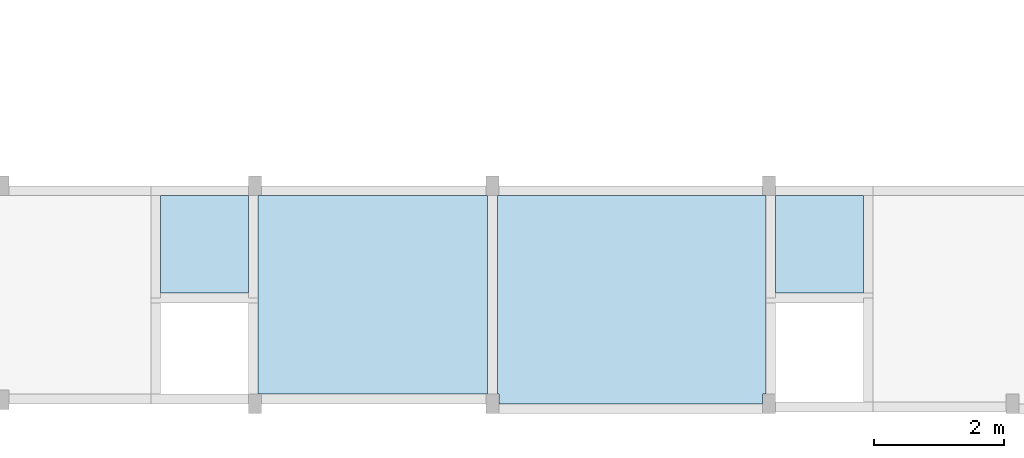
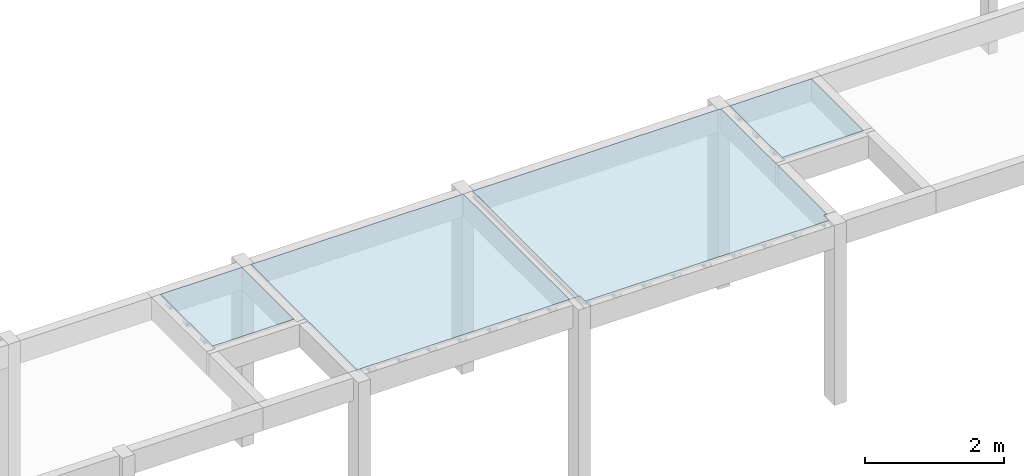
# One storey, part 5 of 11: 4 slabs.
"""IFC4 building model written with IfcOpenShell, lengths in centimetres."""

from ifc_helpers import new_model, si_unit, derived_unit, frame, origin_with_axes, place, context, project, spatial, polyline, outline, extrude, faceted_brep, material, element, save


model = new_model("IFC4")

# Units and contexts
model_context = context("Model", 3, precision=1e-05, world=origin_with_axes(), identifier="Body")
ifc_project = project(units=[si_unit("LENGTHUNIT", "METRE", prefix="CENTI"), si_unit("VOLUMEUNIT", "CUBIC_METRE"), si_unit("AREAUNIT", "SQUARE_METRE"), si_unit("POWERUNIT", "WATT"), si_unit("LUMINOUSFLUXUNIT", "LUMEN"), si_unit("ELECTRICCURRENTUNIT", "AMPERE"), si_unit("PRESSUREUNIT", "PASCAL", prefix="KILO"), si_unit("MASSUNIT", "GRAM", prefix="KILO"), si_unit("PLANEANGLEUNIT", "RADIAN"), derived_unit("VOLUMETRICFLOWRATEUNIT", [(si_unit("LENGTHUNIT", "METRE"), 3), (si_unit("TIMEUNIT", "SECOND"), -1)])], contexts=[model_context])

# Site, building, storey
site_placement = place(None, origin_with_axes())
site = spatial("IfcSite", under=ifc_project, at=site_placement)
building_placement = place(site_placement, frame((0.0, 0.0, -295.0)))
building = spatial("IfcBuilding", under=site, at=building_placement)
placement_1 = place(building_placement, origin_with_axes())
placement_2 = place(placement_1, frame((0.0, 0.0, 101.0), z_axis=(0.0, 0.0, 1.0), x_axis=(1.0, 0.0, 0.0)))
placement_3 = place(placement_2, frame((0.0, 0.0, 204.0), z_axis=(0.0, 0.0, 1.0), x_axis=(1.0, 0.0, 0.0)))
storey_placement = place(placement_3, frame((0.0, 0.0, 292.0), z_axis=(0.0, 0.0, 1.0), x_axis=(1.0, 0.0, 0.0)))
storey = spatial("IfcBuildingStorey", under=building, at=storey_placement, Name="PAVTO 01", CompositionType="ELEMENT", Elevation=302.0)

# Slabs
ifc_material = material(Name="Concreto")
slab_1_placement = place(storey_placement, frame((1826.1, -6919.17, 0.0), z_axis=(0.0, 0.0, 1.0), x_axis=(1.0, 0.0, 0.0)))
element("IfcSlab", 1, at=slab_1_placement, inside=storey, material=ifc_material, Name="L115", PredefinedType="FLOOR", context=model_context, shape_type="SolidModel", body=[
    extrude(outline(polyline([(67.499, 74.97), (-67.499, 74.969), (-67.5, -74.97), (67.5, -74.97), (67.499, 74.97), (67.499, 74.97)])), frame((0.0, 0.0, -4.0), z_axis=(0.0, 0.0, 1.0), x_axis=(1.0, 0.0, 0.0)), (0.0, 0.0, 1.0), 4.0),
    faceted_brep([(-67.4995, -40.0, -12.0), (67.4995, -40.0, -12.0), (67.4995, -50.0, -12.0), (-67.4995, -50.0, -12.0), (-67.4995, -50.0, -4.0), (67.4995, -50.0, -4.0), (67.4995, -40.0, -4.0), (-67.4995, -40.0, -4.0)], [[[0, 1, 2, 3]], [[4, 5, 6, 7]], [[4, 3, 5]], [[3, 2, 5]], [[5, 2, 6]], [[2, 1, 6]], [[6, 1, 7]], [[1, 0, 7]], [[7, 0, 4]], [[0, 3, 4]]]),
    faceted_brep([(-67.4995, -38.5, -12.0), (67.4995, -38.5, -12.0), (67.4995, -40.0, -12.0), (-67.4995, -40.0, -12.0), (-67.4995, -40.0, -9.0), (67.4995, -40.0, -9.0), (67.4995, -38.5, -9.0), (-67.4995, -38.5, -9.0)], [[[0, 1, 2, 3]], [[4, 5, 6, 7]], [[4, 3, 5]], [[3, 2, 5]], [[5, 2, 6]], [[2, 1, 6]], [[6, 1, 7]], [[1, 0, 7]], [[7, 0, 4]], [[0, 3, 4]]]),
    faceted_brep([(-67.4995, -50.0, -12.0), (67.4995, -50.0, -12.0), (67.4995, -51.5, -12.0), (-67.4995, -51.5, -12.0), (-67.4995, -51.5, -9.0), (67.4995, -51.5, -9.0), (67.4995, -50.0, -9.0), (-67.4995, -50.0, -9.0)], [[[0, 1, 2, 3]], [[4, 5, 6, 7]], [[4, 3, 5]], [[3, 2, 5]], [[5, 2, 6]], [[2, 1, 6]], [[6, 1, 7]], [[1, 0, 7]], [[7, 0, 4]], [[0, 3, 4]]]),
    faceted_brep([(-67.4995, 10.0, -12.0), (67.4995, 10.0, -12.0), (67.4995, 0.0, -12.0), (-67.4995, 0.0, -12.0), (-67.4995, 0.0, -4.0), (67.4995, 0.0, -4.0), (67.4995, 10.0, -4.0), (-67.4995, 10.0, -4.0)], [[[0, 1, 2, 3]], [[4, 5, 6, 7]], [[4, 3, 5]], [[3, 2, 5]], [[5, 2, 6]], [[2, 1, 6]], [[6, 1, 7]], [[1, 0, 7]], [[7, 0, 4]], [[0, 3, 4]]]),
    faceted_brep([(-67.4995, 11.5, -12.0), (67.4995, 11.5, -12.0), (67.4995, 10.0, -12.0), (-67.4995, 10.0, -12.0), (-67.4995, 10.0, -9.0), (67.4995, 10.0, -9.0), (67.4995, 11.5, -9.0), (-67.4995, 11.5, -9.0)], [[[0, 1, 2, 3]], [[4, 5, 6, 7]], [[4, 3, 5]], [[3, 2, 5]], [[5, 2, 6]], [[2, 1, 6]], [[6, 1, 7]], [[1, 0, 7]], [[7, 0, 4]], [[0, 3, 4]]]),
    faceted_brep([(-67.4995, 0.0, -12.0), (67.4995, 0.0, -12.0), (67.4995, -1.5, -12.0), (-67.4995, -1.5, -12.0), (-67.4995, -1.5, -9.0), (67.4995, -1.5, -9.0), (67.4995, 0.0, -9.0), (-67.4995, 0.0, -9.0)], [[[0, 1, 2, 3]], [[4, 5, 6, 7]], [[4, 3, 5]], [[3, 2, 5]], [[5, 2, 6]], [[2, 1, 6]], [[6, 1, 7]], [[1, 0, 7]], [[7, 0, 4]], [[0, 3, 4]]]),
    faceted_brep([(-67.4995, 60.0, -12.0), (67.4995, 60.0, -12.0), (67.4995, 50.0, -12.0), (-67.4995, 50.0, -12.0), (-67.4995, 50.0, -4.0), (67.4995, 50.0, -4.0), (67.4995, 60.0, -4.0), (-67.4995, 60.0, -4.0)], [[[0, 1, 2, 3]], [[4, 5, 6, 7]], [[4, 3, 5]], [[3, 2, 5]], [[5, 2, 6]], [[2, 1, 6]], [[6, 1, 7]], [[1, 0, 7]], [[7, 0, 4]], [[0, 3, 4]]]),
    faceted_brep([(-67.4995, 61.5, -12.0), (67.4995, 61.5, -12.0), (67.4995, 60.0, -12.0), (-67.4995, 60.0, -12.0), (-67.4995, 60.0, -9.0), (67.4995, 60.0, -9.0), (67.4995, 61.5, -9.0), (-67.4995, 61.5, -9.0)], [[[0, 1, 2, 3]], [[4, 5, 6, 7]], [[4, 3, 5]], [[3, 2, 5]], [[5, 2, 6]], [[2, 1, 6]], [[6, 1, 7]], [[1, 0, 7]], [[7, 0, 4]], [[0, 3, 4]]]),
    faceted_brep([(-67.4995, 50.0, -12.0), (67.4995, 50.0, -12.0), (67.4995, 48.5, -12.0), (-67.4995, 48.5, -12.0), (-67.4995, 48.5, -9.0), (67.4995, 48.5, -9.0), (67.4995, 50.0, -9.0), (-67.4995, 50.0, -9.0)], [[[0, 1, 2, 3]], [[4, 5, 6, 7]], [[4, 3, 5]], [[3, 2, 5]], [[5, 2, 6]], [[2, 1, 6]], [[6, 1, 7]], [[1, 0, 7]], [[7, 0, 4]], [[0, 3, 4]]]),
])
slab_2_placement = place(storey_placement, frame((2084.915, -6996.755, 0.0), z_axis=(0.0, 0.0, 1.0), x_axis=(1.0, 0.0, 0.0)))
element("IfcSlab", 2, at=slab_2_placement, inside=storey, material=ifc_material, Name="L116", PredefinedType="FLOOR", context=model_context, shape_type="SolidModel", body=[
    extrude(outline(polyline([(176.314, -152.554), (176.315, 152.555), (-176.314, 152.555), (-176.315, -152.555), (176.314, -152.554), (176.314, -152.554)])), frame((0.0, 0.0, -4.0), z_axis=(0.0, 0.0, 1.0), x_axis=(1.0, 0.0, 0.0)), (0.0, 0.0, 1.0), 4.0),
    faceted_brep([(-5.0, -152.5545, -12.0), (-5.0, 152.555, -12.0), (5.0, 152.555, -12.0), (5.0, -152.5545, -12.0), (5.0, -152.5545, -4.0), (5.0, 152.555, -4.0), (-5.0, 152.555, -4.0), (-5.0, -152.5545, -4.0)], [[[0, 1, 2, 3]], [[4, 5, 6, 7]], [[4, 3, 5]], [[3, 2, 5]], [[5, 2, 6]], [[2, 1, 6]], [[6, 1, 7]], [[1, 0, 7]], [[7, 0, 4]], [[0, 3, 4]]]),
    faceted_brep([(-6.5, -152.5545, -12.0), (-6.5, 152.555, -12.0), (-5.0, 152.555, -12.0), (-5.0, -152.5545, -12.0), (-5.0, -152.5545, -9.0), (-5.0, 152.555, -9.0), (-6.5, 152.555, -9.0), (-6.5, -152.5545, -9.0)], [[[0, 1, 2, 3]], [[4, 5, 6, 7]], [[4, 3, 5]], [[3, 2, 5]], [[5, 2, 6]], [[2, 1, 6]], [[6, 1, 7]], [[1, 0, 7]], [[7, 0, 4]], [[0, 3, 4]]]),
    faceted_brep([(5.0, -152.5545, -12.0), (5.0, 152.555, -12.0), (6.5, 152.555, -12.0), (6.5, -152.5545, -12.0), (6.5, -152.5545, -9.0), (6.5, 152.555, -9.0), (5.0, 152.555, -9.0), (5.0, -152.5545, -9.0)], [[[0, 1, 2, 3]], [[4, 5, 6, 7]], [[4, 3, 5]], [[3, 2, 5]], [[5, 2, 6]], [[2, 1, 6]], [[6, 1, 7]], [[1, 0, 7]], [[7, 0, 4]], [[0, 3, 4]]]),
    faceted_brep([(-55.0, -152.5545, -12.0), (-55.0, 152.555, -12.0), (-45.0, 152.555, -12.0), (-45.0, -152.5545, -12.0), (-45.0, -152.5545, -4.0), (-45.0, 152.555, -4.0), (-55.0, 152.555, -4.0), (-55.0, -152.5545, -4.0)], [[[0, 1, 2, 3]], [[4, 5, 6, 7]], [[4, 3, 5]], [[3, 2, 5]], [[5, 2, 6]], [[2, 1, 6]], [[6, 1, 7]], [[1, 0, 7]], [[7, 0, 4]], [[0, 3, 4]]]),
    faceted_brep([(-56.5, -152.5545, -12.0), (-56.5, 152.555, -12.0), (-55.0, 152.555, -12.0), (-55.0, -152.5545, -12.0), (-55.0, -152.5545, -9.0), (-55.0, 152.555, -9.0), (-56.5, 152.555, -9.0), (-56.5, -152.5545, -9.0)], [[[0, 1, 2, 3]], [[4, 5, 6, 7]], [[4, 3, 5]], [[3, 2, 5]], [[5, 2, 6]], [[2, 1, 6]], [[6, 1, 7]], [[1, 0, 7]], [[7, 0, 4]], [[0, 3, 4]]]),
    faceted_brep([(-45.0, -152.5545, -12.0), (-45.0, 152.555, -12.0), (-43.5, 152.555, -12.0), (-43.5, -152.5545, -12.0), (-43.5, -152.5545, -9.0), (-43.5, 152.555, -9.0), (-45.0, 152.555, -9.0), (-45.0, -152.5545, -9.0)], [[[0, 1, 2, 3]], [[4, 5, 6, 7]], [[4, 3, 5]], [[3, 2, 5]], [[5, 2, 6]], [[2, 1, 6]], [[6, 1, 7]], [[1, 0, 7]], [[7, 0, 4]], [[0, 3, 4]]]),
    faceted_brep([(-105.0, -152.5545, -12.0), (-105.0, 152.555, -12.0), (-95.0, 152.555, -12.0), (-95.0, -152.5545, -12.0), (-95.0, -152.5545, -4.0), (-95.0, 152.555, -4.0), (-105.0, 152.555, -4.0), (-105.0, -152.5545, -4.0)], [[[0, 1, 2, 3]], [[4, 5, 6, 7]], [[4, 3, 5]], [[3, 2, 5]], [[5, 2, 6]], [[2, 1, 6]], [[6, 1, 7]], [[1, 0, 7]], [[7, 0, 4]], [[0, 3, 4]]]),
    faceted_brep([(-106.5, -152.5545, -12.0), (-106.5, 152.555, -12.0), (-105.0, 152.555, -12.0), (-105.0, -152.5545, -12.0), (-105.0, -152.5545, -9.0), (-105.0, 152.555, -9.0), (-106.5, 152.555, -9.0), (-106.5, -152.5545, -9.0)], [[[0, 1, 2, 3]], [[4, 5, 6, 7]], [[4, 3, 5]], [[3, 2, 5]], [[5, 2, 6]], [[2, 1, 6]], [[6, 1, 7]], [[1, 0, 7]], [[7, 0, 4]], [[0, 3, 4]]]),
    faceted_brep([(-95.0, -152.5545, -12.0), (-95.0, 152.555, -12.0), (-93.5, 152.555, -12.0), (-93.5, -152.5545, -12.0), (-93.5, -152.5545, -9.0), (-93.5, 152.555, -9.0), (-95.0, 152.555, -9.0), (-95.0, -152.5545, -9.0)], [[[0, 1, 2, 3]], [[4, 5, 6, 7]], [[4, 3, 5]], [[3, 2, 5]], [[5, 2, 6]], [[2, 1, 6]], [[6, 1, 7]], [[1, 0, 7]], [[7, 0, 4]], [[0, 3, 4]]]),
    faceted_brep([(-155.0, -152.5545, -12.0), (-155.0, 152.555, -12.0), (-145.0, 152.555, -12.0), (-145.0, -152.5545, -12.0), (-145.0, -152.5545, -4.0), (-145.0, 152.555, -4.0), (-155.0, 152.555, -4.0), (-155.0, -152.5545, -4.0)], [[[0, 1, 2, 3]], [[4, 5, 6, 7]], [[4, 3, 5]], [[3, 2, 5]], [[5, 2, 6]], [[2, 1, 6]], [[6, 1, 7]], [[1, 0, 7]], [[7, 0, 4]], [[0, 3, 4]]]),
    faceted_brep([(-156.5, -152.5545, -12.0), (-156.5, 152.555, -12.0), (-155.0, 152.555, -12.0), (-155.0, -152.5545, -12.0), (-155.0, -152.5545, -9.0), (-155.0, 152.555, -9.0), (-156.5, 152.555, -9.0), (-156.5, -152.5545, -9.0)], [[[0, 1, 2, 3]], [[4, 5, 6, 7]], [[4, 3, 5]], [[3, 2, 5]], [[5, 2, 6]], [[2, 1, 6]], [[6, 1, 7]], [[1, 0, 7]], [[7, 0, 4]], [[0, 3, 4]]]),
    faceted_brep([(-145.0, -152.5545, -12.0), (-145.0, 152.555, -12.0), (-143.5, 152.555, -12.0), (-143.5, -152.5545, -12.0), (-143.5, -152.5545, -9.0), (-143.5, 152.555, -9.0), (-145.0, 152.555, -9.0), (-145.0, -152.5545, -9.0)], [[[0, 1, 2, 3]], [[4, 5, 6, 7]], [[4, 3, 5]], [[3, 2, 5]], [[5, 2, 6]], [[2, 1, 6]], [[6, 1, 7]], [[1, 0, 7]], [[7, 0, 4]], [[0, 3, 4]]]),
    faceted_brep([(45.0, -152.5545, -12.0), (45.0, 152.555, -12.0), (55.0, 152.555, -12.0), (55.0, -152.5545, -12.0), (55.0, -152.5545, -4.0), (55.0, 152.555, -4.0), (45.0, 152.555, -4.0), (45.0, -152.5545, -4.0)], [[[0, 1, 2, 3]], [[4, 5, 6, 7]], [[4, 3, 5]], [[3, 2, 5]], [[5, 2, 6]], [[2, 1, 6]], [[6, 1, 7]], [[1, 0, 7]], [[7, 0, 4]], [[0, 3, 4]]]),
    faceted_brep([(43.5, -152.5545, -12.0), (43.5, 152.555, -12.0), (45.0, 152.555, -12.0), (45.0, -152.5545, -12.0), (45.0, -152.5545, -9.0), (45.0, 152.555, -9.0), (43.5, 152.555, -9.0), (43.5, -152.5545, -9.0)], [[[0, 1, 2, 3]], [[4, 5, 6, 7]], [[4, 3, 5]], [[3, 2, 5]], [[5, 2, 6]], [[2, 1, 6]], [[6, 1, 7]], [[1, 0, 7]], [[7, 0, 4]], [[0, 3, 4]]]),
    faceted_brep([(55.0, -152.5545, -12.0), (55.0, 152.555, -12.0), (56.5, 152.555, -12.0), (56.5, -152.5545, -12.0), (56.5, -152.5545, -9.0), (56.5, 152.555, -9.0), (55.0, 152.555, -9.0), (55.0, -152.5545, -9.0)], [[[0, 1, 2, 3]], [[4, 5, 6, 7]], [[4, 3, 5]], [[3, 2, 5]], [[5, 2, 6]], [[2, 1, 6]], [[6, 1, 7]], [[1, 0, 7]], [[7, 0, 4]], [[0, 3, 4]]]),
    faceted_brep([(95.0, -152.5545, -12.0), (95.0, 152.555, -12.0), (105.0, 152.555, -12.0), (105.0, -152.5545, -12.0), (105.0, -152.5545, -4.0), (105.0, 152.555, -4.0), (95.0, 152.555, -4.0), (95.0, -152.5545, -4.0)], [[[0, 1, 2, 3]], [[4, 5, 6, 7]], [[4, 3, 5]], [[3, 2, 5]], [[5, 2, 6]], [[2, 1, 6]], [[6, 1, 7]], [[1, 0, 7]], [[7, 0, 4]], [[0, 3, 4]]]),
    faceted_brep([(93.5, -152.5545, -12.0), (93.5, 152.555, -12.0), (95.0, 152.555, -12.0), (95.0, -152.5545, -12.0), (95.0, -152.5545, -9.0), (95.0, 152.555, -9.0), (93.5, 152.555, -9.0), (93.5, -152.5545, -9.0)], [[[0, 1, 2, 3]], [[4, 5, 6, 7]], [[4, 3, 5]], [[3, 2, 5]], [[5, 2, 6]], [[2, 1, 6]], [[6, 1, 7]], [[1, 0, 7]], [[7, 0, 4]], [[0, 3, 4]]]),
    faceted_brep([(105.0, -152.5545, -12.0), (105.0, 152.555, -12.0), (106.5, 152.555, -12.0), (106.5, -152.5545, -12.0), (106.5, -152.5545, -9.0), (106.5, 152.555, -9.0), (105.0, 152.555, -9.0), (105.0, -152.5545, -9.0)], [[[0, 1, 2, 3]], [[4, 5, 6, 7]], [[4, 3, 5]], [[3, 2, 5]], [[5, 2, 6]], [[2, 1, 6]], [[6, 1, 7]], [[1, 0, 7]], [[7, 0, 4]], [[0, 3, 4]]]),
    faceted_brep([(145.0, -152.5545, -12.0), (145.0, 152.555, -12.0), (155.0, 152.555, -12.0), (155.0, -152.5545, -12.0), (155.0, -152.5545, -4.0), (155.0, 152.555, -4.0), (145.0, 152.555, -4.0), (145.0, -152.5545, -4.0)], [[[0, 1, 2, 3]], [[4, 5, 6, 7]], [[4, 3, 5]], [[3, 2, 5]], [[5, 2, 6]], [[2, 1, 6]], [[6, 1, 7]], [[1, 0, 7]], [[7, 0, 4]], [[0, 3, 4]]]),
    faceted_brep([(143.5, -152.5545, -12.0), (143.5, 152.555, -12.0), (145.0, 152.555, -12.0), (145.0, -152.5545, -12.0), (145.0, -152.5545, -9.0), (145.0, 152.555, -9.0), (143.5, 152.555, -9.0), (143.5, -152.5545, -9.0)], [[[0, 1, 2, 3]], [[4, 5, 6, 7]], [[4, 3, 5]], [[3, 2, 5]], [[5, 2, 6]], [[2, 1, 6]], [[6, 1, 7]], [[1, 0, 7]], [[7, 0, 4]], [[0, 3, 4]]]),
    faceted_brep([(155.0, -152.5545, -12.0), (155.0, 152.555, -12.0), (156.5, 152.555, -12.0), (156.5, -152.5545, -12.0), (156.5, -152.5545, -9.0), (156.5, 152.555, -9.0), (155.0, 152.555, -9.0), (155.0, -152.5545, -9.0)], [[[0, 1, 2, 3]], [[4, 5, 6, 7]], [[4, 3, 5]], [[3, 2, 5]], [[5, 2, 6]], [[2, 1, 6]], [[6, 1, 7]], [[1, 0, 7]], [[7, 0, 4]], [[0, 3, 4]]]),
])
slab_3_placement = place(storey_placement, frame((2482.415, -7004.254998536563, 0.0), z_axis=(0.0, 0.0, 1.0), x_axis=(1.0, 0.0, 0.0)))
element("IfcSlab", 3, at=slab_3_placement, inside=storey, material=ifc_material, Name="L117", PredefinedType="FLOOR", context=model_context, shape_type="SolidModel", body=[
    extrude(outline(polyline([(201.184, -145.055), (206.184, -145.054), (206.184, 160.055), (-206.184, 160.055), (-206.185, -145.054), (-203.684, -145.055), (-203.684, -160.054), (201.185, -160.055), (201.184, -145.055), (201.184, -145.055)])), frame((0.0, 0.0, -4.0), z_axis=(0.0, 0.0, 1.0), x_axis=(1.0, 0.0, 0.0)), (0.0, 0.0, 1.0), 4.0),
    faceted_brep([(-5.0, -160.0545014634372, -12.0), (-5.0, 160.0549985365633, -12.0), (5.0, 160.0549985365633, -12.0), (5.0, -160.0545014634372, -12.0), (5.0, -160.0545014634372, -4.0), (5.0, 160.0549985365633, -4.0), (-5.0, 160.0549985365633, -4.0), (-5.0, -160.0545014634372, -4.0)], [[[0, 1, 2, 3]], [[4, 5, 6, 7]], [[4, 3, 5]], [[3, 2, 5]], [[5, 2, 6]], [[2, 1, 6]], [[6, 1, 7]], [[1, 0, 7]], [[7, 0, 4]], [[0, 3, 4]]]),
    faceted_brep([(-6.5, -160.0545014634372, -12.0), (-6.5, 160.0549985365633, -12.0), (-5.0, 160.0549985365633, -12.0), (-5.0, -160.0545014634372, -12.0), (-5.0, -160.0545014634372, -9.0), (-5.0, 160.0549985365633, -9.0), (-6.5, 160.0549985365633, -9.0), (-6.5, -160.0545014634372, -9.0)], [[[0, 1, 2, 3]], [[4, 5, 6, 7]], [[4, 3, 5]], [[3, 2, 5]], [[5, 2, 6]], [[2, 1, 6]], [[6, 1, 7]], [[1, 0, 7]], [[7, 0, 4]], [[0, 3, 4]]]),
    faceted_brep([(5.0, -160.0545014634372, -12.0), (5.0, 160.0549985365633, -12.0), (6.5, 160.0549985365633, -12.0), (6.5, -160.0545014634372, -12.0), (6.5, -160.0545014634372, -9.0), (6.5, 160.0549985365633, -9.0), (5.0, 160.0549985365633, -9.0), (5.0, -160.0545014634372, -9.0)], [[[0, 1, 2, 3]], [[4, 5, 6, 7]], [[4, 3, 5]], [[3, 2, 5]], [[5, 2, 6]], [[2, 1, 6]], [[6, 1, 7]], [[1, 0, 7]], [[7, 0, 4]], [[0, 3, 4]]]),
    faceted_brep([(-55.0, -160.0545014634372, -12.0), (-55.0, 160.0549985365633, -12.0), (-45.0, 160.0549985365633, -12.0), (-45.0, -160.0545014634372, -12.0), (-45.0, -160.0545014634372, -4.0), (-45.0, 160.0549985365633, -4.0), (-55.0, 160.0549985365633, -4.0), (-55.0, -160.0545014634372, -4.0)], [[[0, 1, 2, 3]], [[4, 5, 6, 7]], [[4, 3, 5]], [[3, 2, 5]], [[5, 2, 6]], [[2, 1, 6]], [[6, 1, 7]], [[1, 0, 7]], [[7, 0, 4]], [[0, 3, 4]]]),
    faceted_brep([(-56.5, -160.0545014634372, -12.0), (-56.5, 160.0549985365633, -12.0), (-55.0, 160.0549985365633, -12.0), (-55.0, -160.0545014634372, -12.0), (-55.0, -160.0545014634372, -9.0), (-55.0, 160.0549985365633, -9.0), (-56.5, 160.0549985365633, -9.0), (-56.5, -160.0545014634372, -9.0)], [[[0, 1, 2, 3]], [[4, 5, 6, 7]], [[4, 3, 5]], [[3, 2, 5]], [[5, 2, 6]], [[2, 1, 6]], [[6, 1, 7]], [[1, 0, 7]], [[7, 0, 4]], [[0, 3, 4]]]),
    faceted_brep([(-45.0, -160.0545014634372, -12.0), (-45.0, 160.0549985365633, -12.0), (-43.5, 160.0549985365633, -12.0), (-43.5, -160.0545014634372, -12.0), (-43.5, -160.0545014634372, -9.0), (-43.5, 160.0549985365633, -9.0), (-45.0, 160.0549985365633, -9.0), (-45.0, -160.0545014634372, -9.0)], [[[0, 1, 2, 3]], [[4, 5, 6, 7]], [[4, 3, 5]], [[3, 2, 5]], [[5, 2, 6]], [[2, 1, 6]], [[6, 1, 7]], [[1, 0, 7]], [[7, 0, 4]], [[0, 3, 4]]]),
    faceted_brep([(-105.0, -160.0545014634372, -12.0), (-105.0, 160.0549985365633, -12.0), (-95.0, 160.0549985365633, -12.0), (-95.0, -160.0545014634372, -12.0), (-95.0, -160.0545014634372, -4.0), (-95.0, 160.0549985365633, -4.0), (-105.0, 160.0549985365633, -4.0), (-105.0, -160.0545014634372, -4.0)], [[[0, 1, 2, 3]], [[4, 5, 6, 7]], [[4, 3, 5]], [[3, 2, 5]], [[5, 2, 6]], [[2, 1, 6]], [[6, 1, 7]], [[1, 0, 7]], [[7, 0, 4]], [[0, 3, 4]]]),
    faceted_brep([(-106.5, -160.0545014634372, -12.0), (-106.5, 160.0549985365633, -12.0), (-105.0, 160.0549985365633, -12.0), (-105.0, -160.0545014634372, -12.0), (-105.0, -160.0545014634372, -9.0), (-105.0, 160.0549985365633, -9.0), (-106.5, 160.0549985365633, -9.0), (-106.5, -160.0545014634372, -9.0)], [[[0, 1, 2, 3]], [[4, 5, 6, 7]], [[4, 3, 5]], [[3, 2, 5]], [[5, 2, 6]], [[2, 1, 6]], [[6, 1, 7]], [[1, 0, 7]], [[7, 0, 4]], [[0, 3, 4]]]),
    faceted_brep([(-95.0, -160.0545014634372, -12.0), (-95.0, 160.0549985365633, -12.0), (-93.5, 160.0549985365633, -12.0), (-93.5, -160.0545014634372, -12.0), (-93.5, -160.0545014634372, -9.0), (-93.5, 160.0549985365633, -9.0), (-95.0, 160.0549985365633, -9.0), (-95.0, -160.0545014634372, -9.0)], [[[0, 1, 2, 3]], [[4, 5, 6, 7]], [[4, 3, 5]], [[3, 2, 5]], [[5, 2, 6]], [[2, 1, 6]], [[6, 1, 7]], [[1, 0, 7]], [[7, 0, 4]], [[0, 3, 4]]]),
    faceted_brep([(-155.0, -160.0545014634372, -12.0), (-155.0, 160.0549985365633, -12.0), (-145.0, 160.0549985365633, -12.0), (-145.0, -160.0545014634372, -12.0), (-145.0, -160.0545014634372, -4.0), (-145.0, 160.0549985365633, -4.0), (-155.0, 160.0549985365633, -4.0), (-155.0, -160.0545014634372, -4.0)], [[[0, 1, 2, 3]], [[4, 5, 6, 7]], [[4, 3, 5]], [[3, 2, 5]], [[5, 2, 6]], [[2, 1, 6]], [[6, 1, 7]], [[1, 0, 7]], [[7, 0, 4]], [[0, 3, 4]]]),
    faceted_brep([(-156.5, -160.0545014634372, -12.0), (-156.5, 160.0549985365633, -12.0), (-155.0, 160.0549985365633, -12.0), (-155.0, -160.0545014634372, -12.0), (-155.0, -160.0545014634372, -9.0), (-155.0, 160.0549985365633, -9.0), (-156.5, 160.0549985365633, -9.0), (-156.5, -160.0545014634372, -9.0)], [[[0, 1, 2, 3]], [[4, 5, 6, 7]], [[4, 3, 5]], [[3, 2, 5]], [[5, 2, 6]], [[2, 1, 6]], [[6, 1, 7]], [[1, 0, 7]], [[7, 0, 4]], [[0, 3, 4]]]),
    faceted_brep([(-145.0, -160.0545014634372, -12.0), (-145.0, 160.0549985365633, -12.0), (-143.5, 160.0549985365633, -12.0), (-143.5, -160.0545014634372, -12.0), (-143.5, -160.0545014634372, -9.0), (-143.5, 160.0549985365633, -9.0), (-145.0, 160.0549985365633, -9.0), (-145.0, -160.0545014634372, -9.0)], [[[0, 1, 2, 3]], [[4, 5, 6, 7]], [[4, 3, 5]], [[3, 2, 5]], [[5, 2, 6]], [[2, 1, 6]], [[6, 1, 7]], [[1, 0, 7]], [[7, 0, 4]], [[0, 3, 4]]]),
    faceted_brep([(-205.0, -145.0545014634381, -12.0), (-205.0, 160.0549985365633, -12.0), (-195.0, 160.0549985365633, -12.0), (-195.0, -160.0545014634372, -12.0), (-195.0, -160.0545014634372, -4.0), (-195.0, 160.0549985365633, -4.0), (-205.0, 160.0549985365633, -4.0), (-205.0, -145.0545014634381, -4.0)], [[[0, 1, 2, 3]], [[4, 5, 6, 7]], [[4, 3, 5]], [[3, 2, 5]], [[5, 2, 6]], [[2, 1, 6]], [[6, 1, 7]], [[1, 0, 7]], [[7, 0, 4]], [[0, 3, 4]]]),
    faceted_brep([(-206.5, -160.0540105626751, -12.0), (-206.5, 160.0549985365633, -12.0), (-205.0, 160.0549985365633, -12.0), (-205.0, -160.0540105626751, -12.0), (-205.0, -160.0540105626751, -9.0), (-205.0, 160.0549985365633, -9.0), (-206.5, 160.0549985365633, -9.0), (-206.5, -160.0540105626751, -9.0)], [[[0, 1, 2, 3]], [[4, 5, 6, 7]], [[4, 3, 5]], [[3, 2, 5]], [[5, 2, 6]], [[2, 1, 6]], [[6, 1, 7]], [[1, 0, 7]], [[7, 0, 4]], [[0, 3, 4]]]),
    faceted_brep([(-195.0, -160.0545014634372, -12.0), (-195.0, 160.0549985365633, -12.0), (-193.5, 160.0549985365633, -12.0), (-193.5, -160.0545014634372, -12.0), (-193.5, -160.0545014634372, -9.0), (-193.5, 160.0549985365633, -9.0), (-195.0, 160.0549985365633, -9.0), (-195.0, -160.0545014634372, -9.0)], [[[0, 1, 2, 3]], [[4, 5, 6, 7]], [[4, 3, 5]], [[3, 2, 5]], [[5, 2, 6]], [[2, 1, 6]], [[6, 1, 7]], [[1, 0, 7]], [[7, 0, 4]], [[0, 3, 4]]]),
    faceted_brep([(45.0, -160.0545014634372, -12.0), (45.0, 160.0549985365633, -12.0), (55.0, 160.0549985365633, -12.0), (55.0, -160.0545014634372, -12.0), (55.0, -160.0545014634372, -4.0), (55.0, 160.0549985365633, -4.0), (45.0, 160.0549985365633, -4.0), (45.0, -160.0545014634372, -4.0)], [[[0, 1, 2, 3]], [[4, 5, 6, 7]], [[4, 3, 5]], [[3, 2, 5]], [[5, 2, 6]], [[2, 1, 6]], [[6, 1, 7]], [[1, 0, 7]], [[7, 0, 4]], [[0, 3, 4]]]),
    faceted_brep([(43.5, -160.0545014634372, -12.0), (43.5, 160.0549985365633, -12.0), (45.0, 160.0549985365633, -12.0), (45.0, -160.0545014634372, -12.0), (45.0, -160.0545014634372, -9.0), (45.0, 160.0549985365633, -9.0), (43.5, 160.0549985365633, -9.0), (43.5, -160.0545014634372, -9.0)], [[[0, 1, 2, 3]], [[4, 5, 6, 7]], [[4, 3, 5]], [[3, 2, 5]], [[5, 2, 6]], [[2, 1, 6]], [[6, 1, 7]], [[1, 0, 7]], [[7, 0, 4]], [[0, 3, 4]]]),
    faceted_brep([(55.0, -160.0545014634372, -12.0), (55.0, 160.0549985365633, -12.0), (56.5, 160.0549985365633, -12.0), (56.5, -160.0545014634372, -12.0), (56.5, -160.0545014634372, -9.0), (56.5, 160.0549985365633, -9.0), (55.0, 160.0549985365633, -9.0), (55.0, -160.0545014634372, -9.0)], [[[0, 1, 2, 3]], [[4, 5, 6, 7]], [[4, 3, 5]], [[3, 2, 5]], [[5, 2, 6]], [[2, 1, 6]], [[6, 1, 7]], [[1, 0, 7]], [[7, 0, 4]], [[0, 3, 4]]]),
    faceted_brep([(95.0, -160.0545014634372, -12.0), (95.0, 160.0549985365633, -12.0), (105.0, 160.0549985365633, -12.0), (105.0, -160.0545014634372, -12.0), (105.0, -160.0545014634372, -4.0), (105.0, 160.0549985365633, -4.0), (95.0, 160.0549985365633, -4.0), (95.0, -160.0545014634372, -4.0)], [[[0, 1, 2, 3]], [[4, 5, 6, 7]], [[4, 3, 5]], [[3, 2, 5]], [[5, 2, 6]], [[2, 1, 6]], [[6, 1, 7]], [[1, 0, 7]], [[7, 0, 4]], [[0, 3, 4]]]),
    faceted_brep([(93.5, -160.0545014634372, -12.0), (93.5, 160.0549985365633, -12.0), (95.0, 160.0549985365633, -12.0), (95.0, -160.0545014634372, -12.0), (95.0, -160.0545014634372, -9.0), (95.0, 160.0549985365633, -9.0), (93.5, 160.0549985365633, -9.0), (93.5, -160.0545014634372, -9.0)], [[[0, 1, 2, 3]], [[4, 5, 6, 7]], [[4, 3, 5]], [[3, 2, 5]], [[5, 2, 6]], [[2, 1, 6]], [[6, 1, 7]], [[1, 0, 7]], [[7, 0, 4]], [[0, 3, 4]]]),
    faceted_brep([(105.0, -160.0545014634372, -12.0), (105.0, 160.0549985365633, -12.0), (106.5, 160.0549985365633, -12.0), (106.5, -160.0545014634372, -12.0), (106.5, -160.0545014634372, -9.0), (106.5, 160.0549985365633, -9.0), (105.0, 160.0549985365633, -9.0), (105.0, -160.0545014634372, -9.0)], [[[0, 1, 2, 3]], [[4, 5, 6, 7]], [[4, 3, 5]], [[3, 2, 5]], [[5, 2, 6]], [[2, 1, 6]], [[6, 1, 7]], [[1, 0, 7]], [[7, 0, 4]], [[0, 3, 4]]]),
    faceted_brep([(145.0, -160.0545014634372, -12.0), (145.0, 160.0549985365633, -12.0), (155.0, 160.0549985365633, -12.0), (155.0, -160.0545014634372, -12.0), (155.0, -160.0545014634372, -4.0), (155.0, 160.0549985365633, -4.0), (145.0, 160.0549985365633, -4.0), (145.0, -160.0545014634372, -4.0)], [[[0, 1, 2, 3]], [[4, 5, 6, 7]], [[4, 3, 5]], [[3, 2, 5]], [[5, 2, 6]], [[2, 1, 6]], [[6, 1, 7]], [[1, 0, 7]], [[7, 0, 4]], [[0, 3, 4]]]),
    faceted_brep([(143.5, -160.0545014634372, -12.0), (143.5, 160.0549985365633, -12.0), (145.0, 160.0549985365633, -12.0), (145.0, -160.0545014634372, -12.0), (145.0, -160.0545014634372, -9.0), (145.0, 160.0549985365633, -9.0), (143.5, 160.0549985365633, -9.0), (143.5, -160.0545014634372, -9.0)], [[[0, 1, 2, 3]], [[4, 5, 6, 7]], [[4, 3, 5]], [[3, 2, 5]], [[5, 2, 6]], [[2, 1, 6]], [[6, 1, 7]], [[1, 0, 7]], [[7, 0, 4]], [[0, 3, 4]]]),
    faceted_brep([(155.0, -160.0545014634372, -12.0), (155.0, 160.0549985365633, -12.0), (156.5, 160.0549985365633, -12.0), (156.5, -160.0545014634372, -12.0), (156.5, -160.0545014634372, -9.0), (156.5, 160.0549985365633, -9.0), (155.0, 160.0549985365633, -9.0), (155.0, -160.0545014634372, -9.0)], [[[0, 1, 2, 3]], [[4, 5, 6, 7]], [[4, 3, 5]], [[3, 2, 5]], [[5, 2, 6]], [[2, 1, 6]], [[6, 1, 7]], [[1, 0, 7]], [[7, 0, 4]], [[0, 3, 4]]]),
    faceted_brep([(195.0, -160.0545014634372, -12.0), (195.0, 160.0549985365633, -12.0), (205.0, 160.0549985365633, -12.0), (205.0, -145.0545014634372, -12.0), (205.0, -145.0545014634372, -4.0), (205.0, 160.0549985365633, -4.0), (195.0, 160.0549985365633, -4.0), (195.0, -160.0545014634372, -4.0)], [[[0, 1, 2, 3]], [[4, 5, 6, 7]], [[4, 3, 5]], [[3, 2, 5]], [[5, 2, 6]], [[2, 1, 6]], [[6, 1, 7]], [[1, 0, 7]], [[7, 0, 4]], [[0, 3, 4]]]),
    faceted_brep([(193.5, -160.0545014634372, -12.0), (193.5, 160.0549985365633, -12.0), (195.0, 160.0549985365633, -12.0), (195.0, -160.0545014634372, -12.0), (195.0, -160.0545014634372, -9.0), (195.0, 160.0549985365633, -9.0), (193.5, 160.0549985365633, -9.0), (193.5, -160.0545014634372, -9.0)], [[[0, 1, 2, 3]], [[4, 5, 6, 7]], [[4, 3, 5]], [[3, 2, 5]], [[5, 2, 6]], [[2, 1, 6]], [[6, 1, 7]], [[1, 0, 7]], [[7, 0, 4]], [[0, 3, 4]]]),
    faceted_brep([(205.0, -160.0549985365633, -12.0), (205.0, 160.0549985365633, -12.0), (206.5, 160.0549985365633, -12.0), (206.5, -160.0549985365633, -12.0), (206.5, -160.0549985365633, -9.0), (206.5, 160.0549985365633, -9.0), (205.0, 160.0549985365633, -9.0), (205.0, -160.0549985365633, -9.0)], [[[0, 1, 2, 3]], [[4, 5, 6, 7]], [[4, 3, 5]], [[3, 2, 5]], [[5, 2, 6]], [[2, 1, 6]], [[6, 1, 7]], [[1, 0, 7]], [[7, 0, 4]], [[0, 3, 4]]]),
])
slab_4_placement = place(storey_placement, frame((2771.1, -6919.17, 0.0), z_axis=(0.0, 0.0, 1.0), x_axis=(1.0, 0.0, 0.0)))
element("IfcSlab", 4, at=slab_4_placement, inside=storey, material=ifc_material, Name="L118", PredefinedType="FLOOR", context=model_context, shape_type="SolidModel", body=[
    extrude(outline(polyline([(67.5, 74.97), (-67.5, 74.97), (-67.499, -74.97), (67.5, -74.97), (67.5, 74.97), (67.5, 74.97)])), frame((0.0, 0.0, -4.0), z_axis=(0.0, 0.0, 1.0), x_axis=(1.0, 0.0, 0.0)), (0.0, 0.0, 1.0), 4.0),
    faceted_brep([(-67.4995, -40.0, -12.0), (67.5, -40.0, -12.0), (67.5, -50.0, -12.0), (-67.4995, -50.0, -12.0), (-67.4995, -50.0, -4.0), (67.5, -50.0, -4.0), (67.5, -40.0, -4.0), (-67.4995, -40.0, -4.0)], [[[0, 1, 2, 3]], [[4, 5, 6, 7]], [[4, 3, 5]], [[3, 2, 5]], [[5, 2, 6]], [[2, 1, 6]], [[6, 1, 7]], [[1, 0, 7]], [[7, 0, 4]], [[0, 3, 4]]]),
    faceted_brep([(-67.4995, -38.5, -12.0), (67.5, -38.5, -12.0), (67.5, -40.0, -12.0), (-67.4995, -40.0, -12.0), (-67.4995, -40.0, -9.0), (67.5, -40.0, -9.0), (67.5, -38.5, -9.0), (-67.4995, -38.5, -9.0)], [[[0, 1, 2, 3]], [[4, 5, 6, 7]], [[4, 3, 5]], [[3, 2, 5]], [[5, 2, 6]], [[2, 1, 6]], [[6, 1, 7]], [[1, 0, 7]], [[7, 0, 4]], [[0, 3, 4]]]),
    faceted_brep([(-67.4995, -50.0, -12.0), (67.5, -50.0, -12.0), (67.5, -51.5, -12.0), (-67.4995, -51.5, -12.0), (-67.4995, -51.5, -9.0), (67.5, -51.5, -9.0), (67.5, -50.0, -9.0), (-67.4995, -50.0, -9.0)], [[[0, 1, 2, 3]], [[4, 5, 6, 7]], [[4, 3, 5]], [[3, 2, 5]], [[5, 2, 6]], [[2, 1, 6]], [[6, 1, 7]], [[1, 0, 7]], [[7, 0, 4]], [[0, 3, 4]]]),
    faceted_brep([(-67.4995, 10.0, -12.0), (67.5, 10.0, -12.0), (67.5, 0.0, -12.0), (-67.4995, 0.0, -12.0), (-67.4995, 0.0, -4.0), (67.5, 0.0, -4.0), (67.5, 10.0, -4.0), (-67.4995, 10.0, -4.0)], [[[0, 1, 2, 3]], [[4, 5, 6, 7]], [[4, 3, 5]], [[3, 2, 5]], [[5, 2, 6]], [[2, 1, 6]], [[6, 1, 7]], [[1, 0, 7]], [[7, 0, 4]], [[0, 3, 4]]]),
    faceted_brep([(-67.4995, 11.5, -12.0), (67.5, 11.5, -12.0), (67.5, 10.0, -12.0), (-67.4995, 10.0, -12.0), (-67.4995, 10.0, -9.0), (67.5, 10.0, -9.0), (67.5, 11.5, -9.0), (-67.4995, 11.5, -9.0)], [[[0, 1, 2, 3]], [[4, 5, 6, 7]], [[4, 3, 5]], [[3, 2, 5]], [[5, 2, 6]], [[2, 1, 6]], [[6, 1, 7]], [[1, 0, 7]], [[7, 0, 4]], [[0, 3, 4]]]),
    faceted_brep([(-67.4995, 0.0, -12.0), (67.5, 0.0, -12.0), (67.5, -1.5, -12.0), (-67.4995, -1.5, -12.0), (-67.4995, -1.5, -9.0), (67.5, -1.5, -9.0), (67.5, 0.0, -9.0), (-67.4995, 0.0, -9.0)], [[[0, 1, 2, 3]], [[4, 5, 6, 7]], [[4, 3, 5]], [[3, 2, 5]], [[5, 2, 6]], [[2, 1, 6]], [[6, 1, 7]], [[1, 0, 7]], [[7, 0, 4]], [[0, 3, 4]]]),
    faceted_brep([(-67.4995, 60.0, -12.0), (67.5, 60.0, -12.0), (67.5, 50.0, -12.0), (-67.4995, 50.0, -12.0), (-67.4995, 50.0, -4.0), (67.5, 50.0, -4.0), (67.5, 60.0, -4.0), (-67.4995, 60.0, -4.0)], [[[0, 1, 2, 3]], [[4, 5, 6, 7]], [[4, 3, 5]], [[3, 2, 5]], [[5, 2, 6]], [[2, 1, 6]], [[6, 1, 7]], [[1, 0, 7]], [[7, 0, 4]], [[0, 3, 4]]]),
    faceted_brep([(-67.4995, 61.5, -12.0), (67.5, 61.5, -12.0), (67.5, 60.0, -12.0), (-67.4995, 60.0, -12.0), (-67.4995, 60.0, -9.0), (67.5, 60.0, -9.0), (67.5, 61.5, -9.0), (-67.4995, 61.5, -9.0)], [[[0, 1, 2, 3]], [[4, 5, 6, 7]], [[4, 3, 5]], [[3, 2, 5]], [[5, 2, 6]], [[2, 1, 6]], [[6, 1, 7]], [[1, 0, 7]], [[7, 0, 4]], [[0, 3, 4]]]),
    faceted_brep([(-67.4995, 50.0, -12.0), (67.5, 50.0, -12.0), (67.5, 48.5, -12.0), (-67.4995, 48.5, -12.0), (-67.4995, 48.5, -9.0), (67.5, 48.5, -9.0), (67.5, 50.0, -9.0), (-67.4995, 50.0, -9.0)], [[[0, 1, 2, 3]], [[4, 5, 6, 7]], [[4, 3, 5]], [[3, 2, 5]], [[5, 2, 6]], [[2, 1, 6]], [[6, 1, 7]], [[1, 0, 7]], [[7, 0, 4]], [[0, 3, 4]]]),
])

save(model, "model.ifc")
